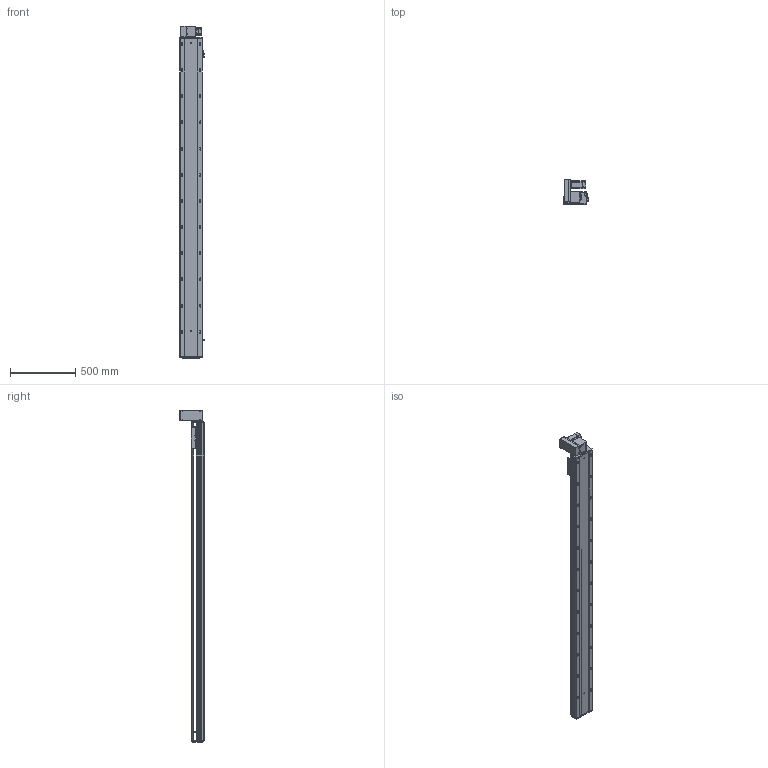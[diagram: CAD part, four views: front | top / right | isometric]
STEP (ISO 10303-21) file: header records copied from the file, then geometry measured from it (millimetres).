
FILE_DESCRIPTION (( 'STEP AP203' ), '1' );
FILE_NAME ('RY170-T-300-UL-P400W.SLDASM_2150.step', '2021-03-02T02:14:36', ( '盈信电脑' ), ( '东莞市道滘镇水果街19号' ), 'SwSTEP 2.0', 'SolidWorks 2012', '' );
FILE_SCHEMA (( 'CONFIG_CONTROL_DESIGN' ));
Length unit declared in the file: millimetre
Products named in the file (18): RY170-T-300-UL-P400W.SLDASM_2150; RY170-T蹟翐M4; RY170同步轮电机安装板(400W); RY170肮祭謫萇儂欶; 15; 滅袉蝶18-10; RY170-T肮祭謫裔啣; RY170-T肮祭湍揤踡輸2; RY120-T主同步轮轴承压盖; RY170肮祭謫ヶ裔啣; RY170翋肮祭謫釱; RY170-T肮祭湍揤踡輸1; RY170外置感应片(200共用）; RY170-T-300肮祭謫倰第裔啣-DL_2150; RY170綴裔啣; 覜茼ん672; RY170肮祭湍臏賑輸; RY170-T-300肮祭謫倰第菁釱-DL_2150
Assembly tree (20 placements, depth 2):
  RY170-T-300-UL-P400W.SLDASM_2150
    RY170-T-300肮祭謫倰第菁釱-DL_2150
    RY170肮祭湍臏賑輸
    RY170-T-300肮祭謫倰第裔啣-DL_2150
    RY170綴裔啣
    覜茼ん672  x3
    RY170外置感应片(200共用）
    RY170肮祭謫ヶ裔啣
    RY170翋肮祭謫釱
    RY170-T肮祭湍揤踡輸1
    RY170-T肮祭湍揤踡輸2
    RY170-T肮祭謫裔啣
    滅袉蝶18-10  x2
    RY120-T主同步轮轴承压盖
    RY170肮祭謫萇儂欶
    RY170同步轮电机安装板(400W)
    RY170-T蹟翐M4
    15
Bounding box: 183.7 x 184 x 2538 mm (x, y, z)
Volume: 11675927.4 mm3; surface area: 4019657.9 mm2
Topology: 20 solids, 20 shells, 2857 faces, 8046 edges, 5109 vertices
Faces by surface type: cylinder 1356, plane 1155, cone 316, bspline 30
Entity records: 92360 total; most frequent: CARTESIAN_POINT 21445, ORIENTED_EDGE 14576, DIRECTION 14204, EDGE_CURVE 7288, AXIS2_PLACEMENT_3D 5050, VERTEX_POINT 4777, VECTOR 4104, LINE 4104
